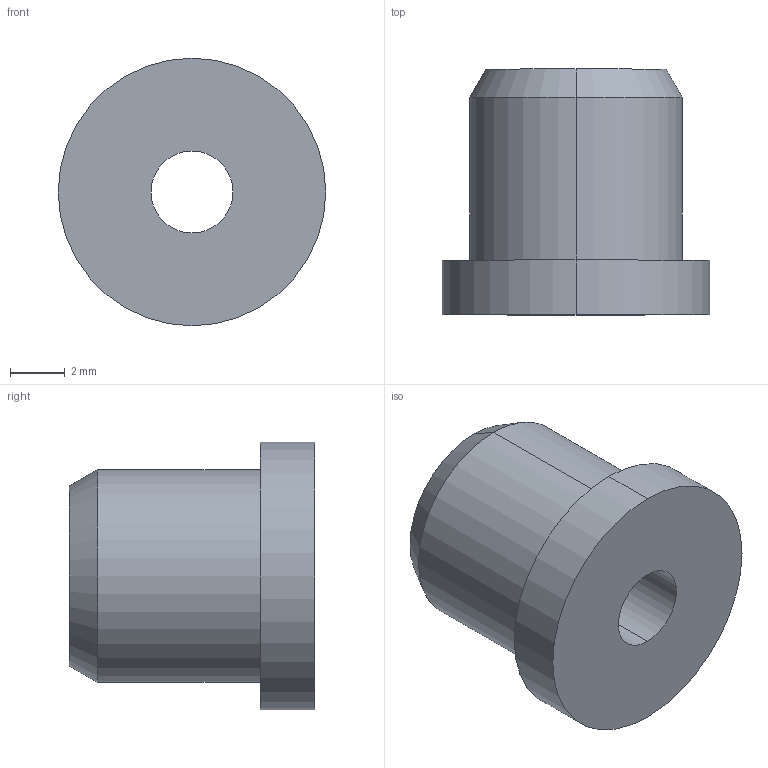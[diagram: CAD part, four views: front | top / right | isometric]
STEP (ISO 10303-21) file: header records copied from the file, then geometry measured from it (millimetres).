
FILE_DESCRIPTION (( 'STEP AP203' ), '1' );
FILE_NAME ('DBP_UPPER_ROLLER_GUIDE_hub_r1.STEP', '2018-11-08T15:30:31', ( '' ), ( '' ), 'SwSTEP 2.0', 'SolidWorks 2015', '' );
FILE_SCHEMA (( 'CONFIG_CONTROL_DESIGN' ));
Length unit declared in the file: inch
Products named in the file (1): DBP_UPPER_ROLLER_GUIDE_hub_r1
Bounding box: 9.8 x 9 x 9.8 mm (x, y, z)
Volume: 414.5 mm3; surface area: 442.8 mm2
Topology: 1 solids, 1 shells, 11 faces, 22 edges, 14 vertices
Faces by surface type: cylinder 6, plane 3, cone 2
Entity records: 377 total; most frequent: DIRECTION 60, CARTESIAN_POINT 48, ORIENTED_EDGE 44, AXIS2_PLACEMENT_3D 26, EDGE_CURVE 22, CIRCLE 14, EDGE_LOOP 14, VERTEX_POINT 14
